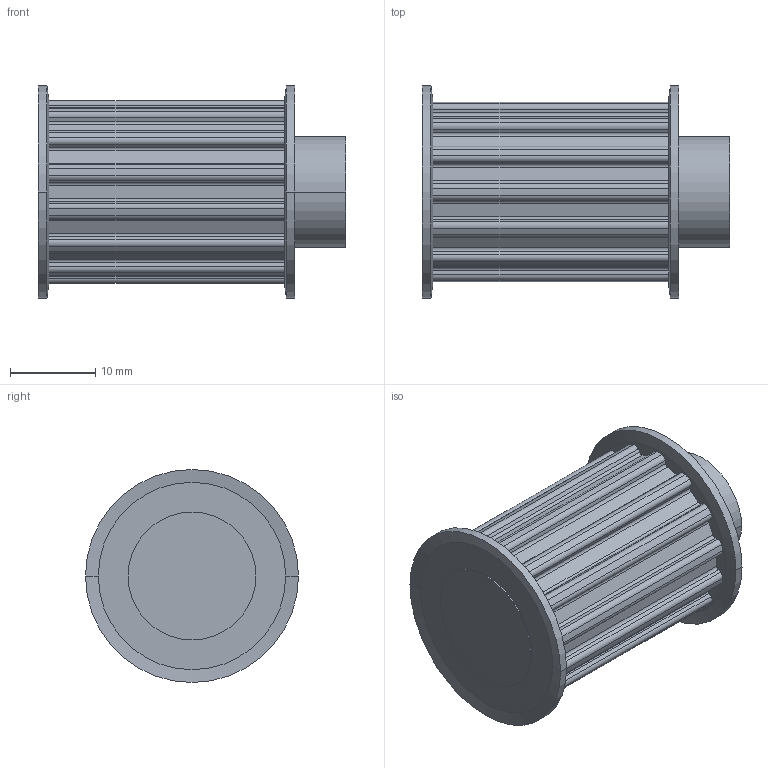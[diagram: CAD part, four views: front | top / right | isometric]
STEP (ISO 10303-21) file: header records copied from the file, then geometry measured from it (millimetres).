
FILE_DESCRIPTION( ( '' ), '1' );
FILE_NAME( 'C:/Users/Stangenbergd/Documents/CAD_Step/1/16241400.stp', '2021-10-19T08:45:25', ( '' ), ( '' ), ' ', ' ', ' ' );
FILE_SCHEMA( ( 'CONFIG_CONTROL_DESIGN' ) );
Length unit declared in the file: millimetre
Products named in the file (1): 1
Bounding box: 36.06 x 25 x 25 mm (x, y, z)
Volume: 10593.9 mm3; surface area: 4054 mm2
Topology: 1 solids, 1 shells, 137 faces, 382 edges, 252 vertices
Faces by surface type: cylinder 80, plane 49, cone 8
Entity records: 4504 total; most frequent: DIRECTION 826, CARTESIAN_POINT 772, ORIENTED_EDGE 764, EDGE_CURVE 382, AXIS2_PLACEMENT_3D 306, VERTEX_POINT 252, LINE 214, VECTOR 214
